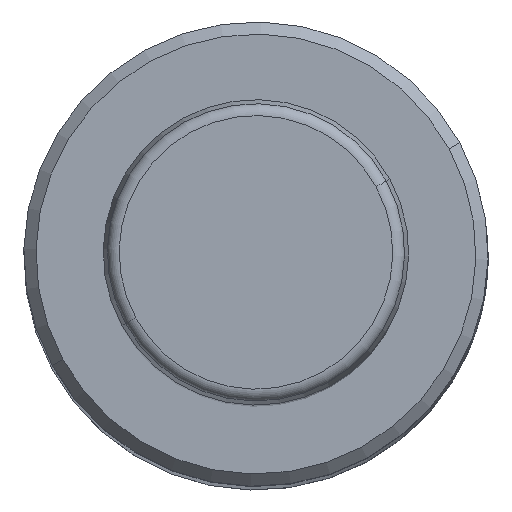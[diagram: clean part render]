
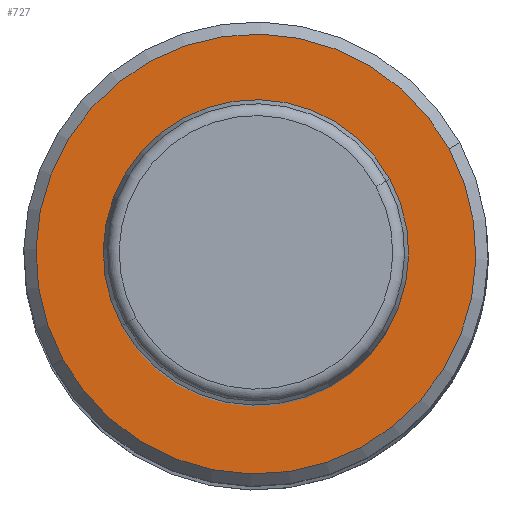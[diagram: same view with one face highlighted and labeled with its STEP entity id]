
A CAD part, top view. The second image highlights one B-rep face of the part: STEP entity #727.
In plain terms, the highlighted planar face has unit normal (0, 0, 1).
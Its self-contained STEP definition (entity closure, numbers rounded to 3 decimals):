
#499=CARTESIAN_POINT('Axis2P3D Location',(0.,0.,159.)) ;
#503=CARTESIAN_POINT('Vertex',(15.796,8.63,159.)) ;
#505=CARTESIAN_POINT('Vertex',(-15.796,-8.63,159.)) ;
#534=CARTESIAN_POINT('Axis2P3D Location',(0.,0.,159.)) ;
#718=CARTESIAN_POINT('Axis2P3D Location',(18.,0.,159.)) ;
#500=DIRECTION('Axis2P3D Direction',(0.,0.,-1.)) ;
#535=DIRECTION('Axis2P3D Direction',(0.,0.,-1.)) ;
#719=DIRECTION('Axis2P3D Direction',(0.,0.,1.)) ;
#720=DIRECTION('Axis2P3D XDirection',(1.,0.,0.)) ;
#501=AXIS2_PLACEMENT_3D('Circle Axis2P3D',#499,#500,$) ;
#536=AXIS2_PLACEMENT_3D('Circle Axis2P3D',#534,#535,$) ;
#721=AXIS2_PLACEMENT_3D('Plane Axis2P3D',#718,#719,#720) ;
#724=ORIENTED_EDGE('',*,*,#507,.T.) ;
#725=ORIENTED_EDGE('',*,*,#538,.T.) ;
#727=ADVANCED_FACE('',(#726),#722,.T.) ;
#502=CIRCLE('generated circle',#501,18.) ;
#537=CIRCLE('generated circle',#536,18.) ;
#507=EDGE_CURVE('',#504,#506,#502,.F.) ;
#538=EDGE_CURVE('',#506,#504,#537,.F.) ;
#723=EDGE_LOOP('',(#724,#725)) ;
#726=FACE_OUTER_BOUND('',#723,.T.) ;
#722=PLANE('Plane',#721) ;
#504=VERTEX_POINT('',#503) ;
#506=VERTEX_POINT('',#505) ;
